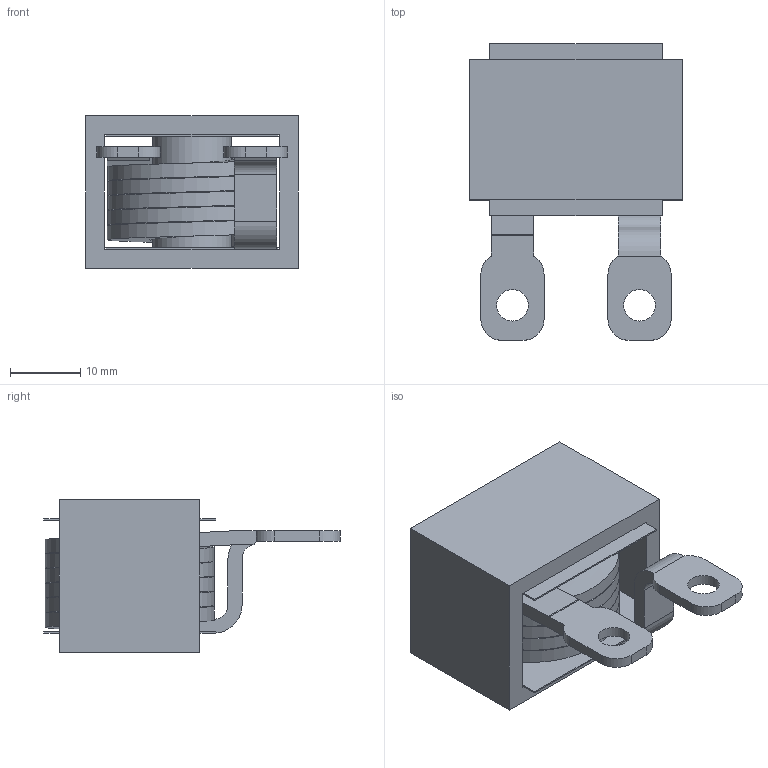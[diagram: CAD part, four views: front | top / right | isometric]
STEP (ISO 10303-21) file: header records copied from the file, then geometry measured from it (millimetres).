
FILE_DESCRIPTION(/* description */ ('Unknown'),/* implementation_level */ '2;1');
FILE_NAME(/* name */ '170913_IPLA32_3D',/* time_stamp */ '2017-09-13T10:17:41+02:00',/* author */ ('Unknown'),/* organization */ ('Unknown'),/* preprocessor_version */ 'ST-DEVELOPER v16.7',/* originating_system */ 'DEX',/* authorisation */ $);
FILE_SCHEMA (('AUTOMOTIVE_DESIGN {1 0 10303 214 3 1 1}'));
Length unit declared in the file: millimetre
Products named in the file (1): 170913_IPLA32_3D
Bounding box: 30.2 x 42.25 x 21.7 mm (x, y, z)
Volume: 11119.4 mm3; surface area: 11338 mm2
Topology: 1 solids, 1 shells, 78 faces, 201 edges, 129 vertices
Faces by surface type: plane 53, cylinder 23, bspline 2
Full cylindrical faces by diameter (mm): 4.5 x2, 11.2 x2, 11.5 x2
Entity records: 4647 total; most frequent: CARTESIAN_POINT 2192, ORIENTED_EDGE 384, DIRECTION 378, EDGE_CURVE 192, LINE 144, VECTOR 144, VERTEX_POINT 126, AXIS2_PLACEMENT_3D 117
